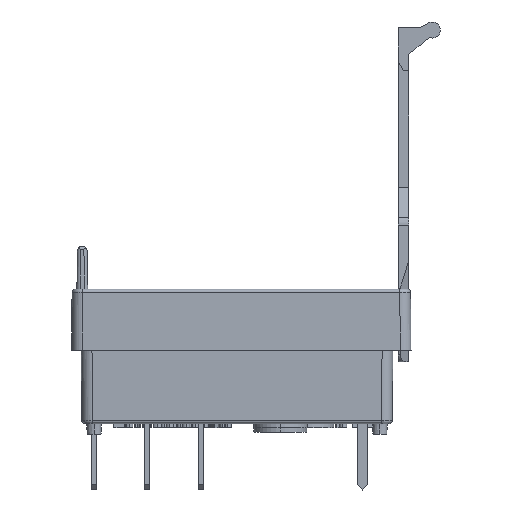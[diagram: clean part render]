
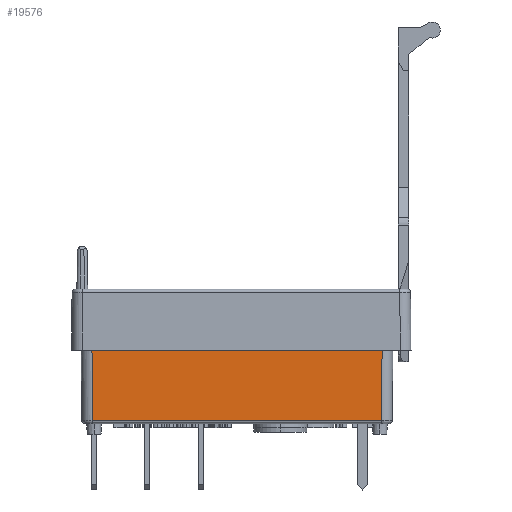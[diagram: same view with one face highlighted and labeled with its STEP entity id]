
A CAD part, left-side view. The second image highlights one B-rep face of the part: STEP entity #19576.
In plain terms, the highlighted planar face has unit normal (-1, 0, -0.006).
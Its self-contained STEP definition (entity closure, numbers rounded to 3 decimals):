
#450 = ORIENTED_EDGE ( 'NONE', *, *, #11530, .T. ) ;
#4061 = CARTESIAN_POINT ( 'NONE',  ( 0.957, 18.699, 13.05 ) ) ;
#5279 = VERTEX_POINT ( 'NONE', #14153 ) ;
#5810 = DIRECTION ( 'NONE',  ( 0.006, 0., -1. ) ) ;
#6345 = CARTESIAN_POINT ( 'NONE',  ( 0.949, 32.549, 14.215 ) ) ;
#6430 = CARTESIAN_POINT ( 'NONE',  ( 0.952, 5.444, 14.207 ) ) ;
#7996 = CARTESIAN_POINT ( 'NONE',  ( 0.959, 5.452, 13.05 ) ) ;
#8680 = EDGE_CURVE ( 'NONE', #5279, #18045, #9208, .T. ) ;
#9208 = LINE ( 'NONE', #19372, #32859 ) ;
#11384 = ORIENTED_EDGE ( 'NONE', *, *, #8680, .T. ) ;
#11530 = EDGE_CURVE ( 'NONE', #18045, #18529, #25116, .T. ) ;
#11986 = EDGE_CURVE ( 'NONE', #18529, #29675, #31472, .T. ) ;
#12027 = LINE ( 'NONE', #6345, #34906 ) ;
#14153 = CARTESIAN_POINT ( 'NONE',  ( 0.996, 32.502, 6.498 ) ) ;
#14878 = EDGE_LOOP ( 'NONE', ( #450, #23420, #14908, #11384 ) ) ;
#14908 = ORIENTED_EDGE ( 'NONE', *, *, #25431, .T. ) ;
#15683 = CARTESIAN_POINT ( 'NONE',  ( 0.956, 32.542, 13.05 ) ) ;
#16856 = DIRECTION ( 'NONE',  ( 0.006, -0.006, -1. ) ) ;
#18045 = VERTEX_POINT ( 'NONE', #30138 ) ;
#18529 = VERTEX_POINT ( 'NONE', #7996 ) ;
#18835 = AXIS2_PLACEMENT_3D ( 'NONE', #19354, #30194, #5810 ) ;
#19354 = CARTESIAN_POINT ( 'NONE',  ( 0.95, 18.699, 14.3 ) ) ;
#19372 = CARTESIAN_POINT ( 'NONE',  ( 0.997, 18.699, 6.498 ) ) ;
#19576 = ADVANCED_FACE ( 'NONE', ( #22022 ), #32865, .T. ) ;
#20798 = DIRECTION ( 'NONE',  ( 0., 1., 0. ) ) ;
#22022 = FACE_OUTER_BOUND ( 'NONE', #14878, .T. ) ;
#23420 = ORIENTED_EDGE ( 'NONE', *, *, #11986, .T. ) ;
#25116 = LINE ( 'NONE', #6430, #26697 ) ;
#25431 = EDGE_CURVE ( 'NONE', #29675, #5279, #12027, .T. ) ;
#26697 = VECTOR ( 'NONE', #33492, 1000. ) ;
#29675 = VERTEX_POINT ( 'NONE', #15683 ) ;
#30138 = CARTESIAN_POINT ( 'NONE',  ( 0.999, 5.498, 6.498 ) ) ;
#30194 = DIRECTION ( 'NONE',  ( -1., 0., -0.006 ) ) ;
#30897 = DIRECTION ( 'NONE',  ( 0., -1., 0. ) ) ;
#31472 = LINE ( 'NONE', #4061, #34440 ) ;
#32859 = VECTOR ( 'NONE', #30897, 1000. ) ;
#32865 = PLANE ( 'NONE',  #18835 ) ;
#33492 = DIRECTION ( 'NONE',  ( -0.006, -0.007, 1. ) ) ;
#34440 = VECTOR ( 'NONE', #20798, 1000. ) ;
#34906 = VECTOR ( 'NONE', #16856, 1000. ) ;
